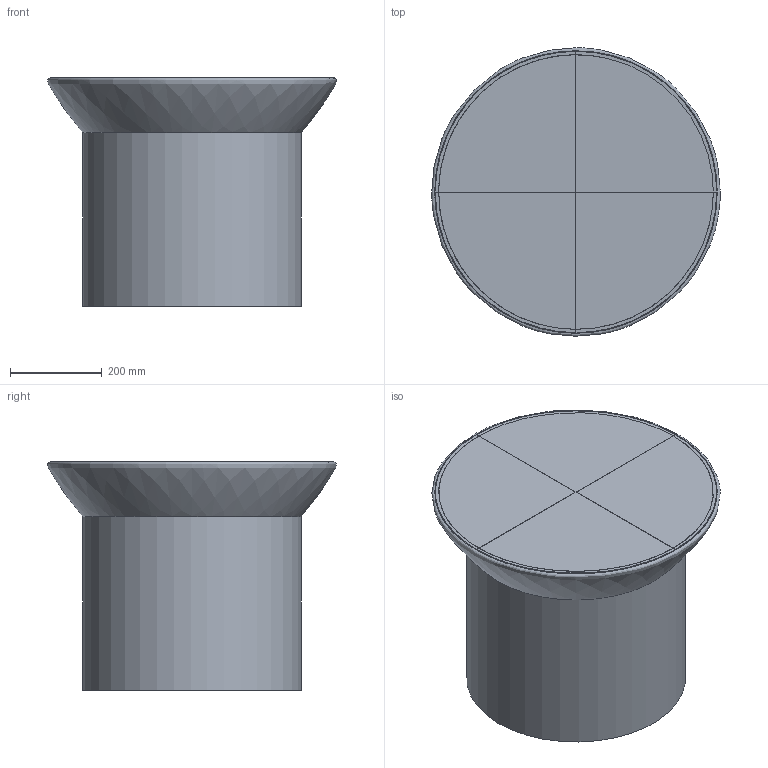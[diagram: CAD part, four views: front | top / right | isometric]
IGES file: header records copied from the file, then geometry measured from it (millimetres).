
Global section: file name: 16HC:\Users\Monika; native system: Rhinoceros ( Feb  8 2022 ); preprocessor: Trout Lake IGES 012 Feb  8 2022; date: 230924.182848; units: millimetre
Bounding box: 630.25 x 630.19 x 500.21 mm (x, y, z)
Surface area: 1731882.9 mm2 (no closed solid volume)
Topology: 0 solids, 0 shells, 19 faces, 81 edges, 82 vertices
Faces by surface type: bspline 19
